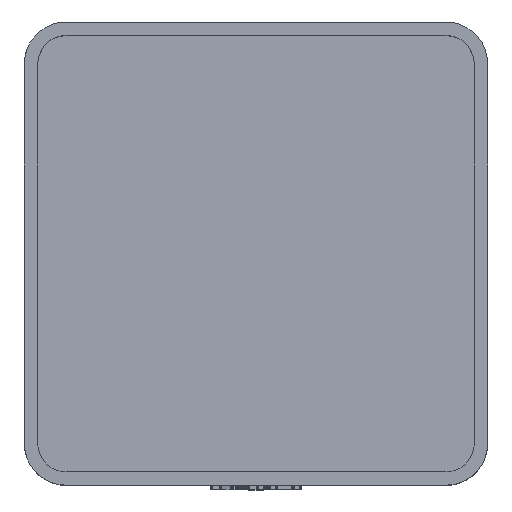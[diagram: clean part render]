
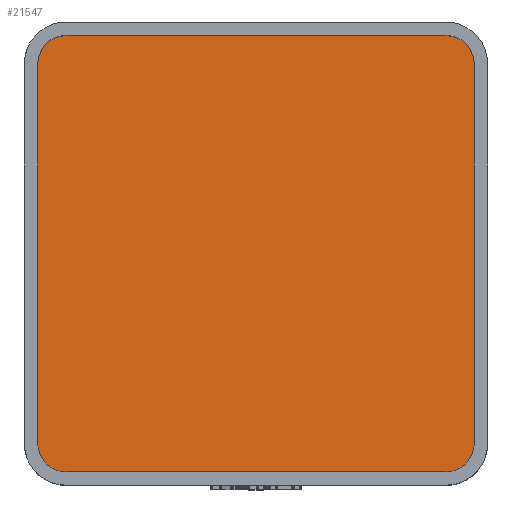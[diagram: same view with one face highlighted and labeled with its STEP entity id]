
A CAD part, top view. The second image highlights one B-rep face of the part: STEP entity #21547.
In plain terms, the highlighted planar face has unit normal (0, 0, 1).
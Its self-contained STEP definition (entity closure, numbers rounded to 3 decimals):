
#1442 = PLANE('',#1443);
#1443 = AXIS2_PLACEMENT_3D('',#1444,#1445,#1446);
#1444 = CARTESIAN_POINT('',(-19.55,-17.,4.75));
#1445 = DIRECTION('',(-1.,0.,0.));
#1446 = DIRECTION('',(0.,1.,0.));
#1474 = CYLINDRICAL_SURFACE('',#1475,2.55);
#1475 = AXIS2_PLACEMENT_3D('',#1476,#1477,#1478);
#1476 = CARTESIAN_POINT('',(-17.,17.,4.75));
#1477 = DIRECTION('',(-0.,-0.,-1.));
#1478 = DIRECTION('',(1.,0.,0.));
#1501 = PLANE('',#1502);
#1502 = AXIS2_PLACEMENT_3D('',#1503,#1504,#1505);
#1503 = CARTESIAN_POINT('',(-17.,19.55,4.75));
#1504 = DIRECTION('',(0.,1.,0.));
#1505 = DIRECTION('',(1.,0.,0.));
#1533 = CYLINDRICAL_SURFACE('',#1534,2.55);
#1534 = AXIS2_PLACEMENT_3D('',#1535,#1536,#1537);
#1535 = CARTESIAN_POINT('',(17.,17.,4.75));
#1536 = DIRECTION('',(-0.,-0.,-1.));
#1537 = DIRECTION('',(1.,0.,0.));
#1560 = PLANE('',#1561);
#1561 = AXIS2_PLACEMENT_3D('',#1562,#1563,#1564);
#1562 = CARTESIAN_POINT('',(19.55,-17.,4.75));
#1563 = DIRECTION('',(-1.,0.,0.));
#1564 = DIRECTION('',(0.,1.,0.));
#1592 = CYLINDRICAL_SURFACE('',#1593,2.55);
#1593 = AXIS2_PLACEMENT_3D('',#1594,#1595,#1596);
#1594 = CARTESIAN_POINT('',(17.,-17.,4.75));
#1595 = DIRECTION('',(-0.,-0.,-1.));
#1596 = DIRECTION('',(1.,0.,0.));
#1619 = PLANE('',#1620);
#1620 = AXIS2_PLACEMENT_3D('',#1621,#1622,#1623);
#1621 = CARTESIAN_POINT('',(-17.,-19.55,4.75));
#1622 = DIRECTION('',(0.,1.,0.));
#1623 = DIRECTION('',(1.,0.,0.));
#1649 = CYLINDRICAL_SURFACE('',#1650,2.55);
#1650 = AXIS2_PLACEMENT_3D('',#1651,#1652,#1653);
#1651 = CARTESIAN_POINT('',(-17.,-17.,4.75));
#1652 = DIRECTION('',(-0.,-0.,-1.));
#1653 = DIRECTION('',(1.,0.,0.));
#8493 = EDGE_CURVE('',#8494,#8496,#8498,.T.);
#8494 = VERTEX_POINT('',#8495);
#8495 = CARTESIAN_POINT('',(-19.55,-17.,4.75));
#8496 = VERTEX_POINT('',#8497);
#8497 = CARTESIAN_POINT('',(-19.55,17.,4.75));
#8498 = SURFACE_CURVE('',#8499,(#8503,#8510),.PCURVE_S1.);
#8499 = LINE('',#8500,#8501);
#8500 = CARTESIAN_POINT('',(-19.55,0.,4.75));
#8501 = VECTOR('',#8502,1.);
#8502 = DIRECTION('',(0.,1.,0.));
#8503 = PCURVE('',#1442,#8504);
#8504 = DEFINITIONAL_REPRESENTATION('',(#8505),#8509);
#8505 = LINE('',#8506,#8507);
#8506 = CARTESIAN_POINT('',(17.,0.));
#8507 = VECTOR('',#8508,1.);
#8508 = DIRECTION('',(1.,0.));
#8509 = ( GEOMETRIC_REPRESENTATION_CONTEXT(2) 
PARAMETRIC_REPRESENTATION_CONTEXT() REPRESENTATION_CONTEXT('2D SPACE',''
  ) );
#8510 = PCURVE('',#8511,#8516);
#8511 = PLANE('',#8512);
#8512 = AXIS2_PLACEMENT_3D('',#8513,#8514,#8515);
#8513 = CARTESIAN_POINT('',(0.,0.,4.75)
  );
#8514 = DIRECTION('',(0.,0.,1.));
#8515 = DIRECTION('',(1.,0.,-0.));
#8516 = DEFINITIONAL_REPRESENTATION('',(#8517),#8521);
#8517 = LINE('',#8518,#8519);
#8518 = CARTESIAN_POINT('',(-19.55,0.));
#8519 = VECTOR('',#8520,1.);
#8520 = DIRECTION('',(0.,1.));
#8521 = ( GEOMETRIC_REPRESENTATION_CONTEXT(2) 
PARAMETRIC_REPRESENTATION_CONTEXT() REPRESENTATION_CONTEXT('2D SPACE',''
  ) );
#8569 = EDGE_CURVE('',#8494,#8570,#8572,.T.);
#8570 = VERTEX_POINT('',#8571);
#8571 = CARTESIAN_POINT('',(-17.,-19.55,4.75));
#8572 = SURFACE_CURVE('',#8573,(#8578,#8585),.PCURVE_S1.);
#8573 = CIRCLE('',#8574,2.55);
#8574 = AXIS2_PLACEMENT_3D('',#8575,#8576,#8577);
#8575 = CARTESIAN_POINT('',(-17.,-17.,4.75));
#8576 = DIRECTION('',(0.,0.,1.));
#8577 = DIRECTION('',(1.,0.,0.));
#8578 = PCURVE('',#1649,#8579);
#8579 = DEFINITIONAL_REPRESENTATION('',(#8580),#8584);
#8580 = LINE('',#8581,#8582);
#8581 = CARTESIAN_POINT('',(-0.,0.));
#8582 = VECTOR('',#8583,1.);
#8583 = DIRECTION('',(-1.,0.));
#8584 = ( GEOMETRIC_REPRESENTATION_CONTEXT(2) 
PARAMETRIC_REPRESENTATION_CONTEXT() REPRESENTATION_CONTEXT('2D SPACE',''
  ) );
#8585 = PCURVE('',#8511,#8586);
#8586 = DEFINITIONAL_REPRESENTATION('',(#8587),#8591);
#8587 = CIRCLE('',#8588,2.55);
#8588 = AXIS2_PLACEMENT_2D('',#8589,#8590);
#8589 = CARTESIAN_POINT('',(-17.,-17.));
#8590 = DIRECTION('',(1.,0.));
#8591 = ( GEOMETRIC_REPRESENTATION_CONTEXT(2) 
PARAMETRIC_REPRESENTATION_CONTEXT() REPRESENTATION_CONTEXT('2D SPACE',''
  ) );
#8619 = EDGE_CURVE('',#8570,#8620,#8622,.T.);
#8620 = VERTEX_POINT('',#8621);
#8621 = CARTESIAN_POINT('',(17.,-19.55,4.75));
#8622 = SURFACE_CURVE('',#8623,(#8627,#8634),.PCURVE_S1.);
#8623 = LINE('',#8624,#8625);
#8624 = CARTESIAN_POINT('',(0.,-19.55,4.75));
#8625 = VECTOR('',#8626,1.);
#8626 = DIRECTION('',(1.,0.,0.));
#8627 = PCURVE('',#1619,#8628);
#8628 = DEFINITIONAL_REPRESENTATION('',(#8629),#8633);
#8629 = LINE('',#8630,#8631);
#8630 = CARTESIAN_POINT('',(17.,0.));
#8631 = VECTOR('',#8632,1.);
#8632 = DIRECTION('',(1.,0.));
#8633 = ( GEOMETRIC_REPRESENTATION_CONTEXT(2) 
PARAMETRIC_REPRESENTATION_CONTEXT() REPRESENTATION_CONTEXT('2D SPACE',''
  ) );
#8634 = PCURVE('',#8511,#8635);
#8635 = DEFINITIONAL_REPRESENTATION('',(#8636),#8640);
#8636 = LINE('',#8637,#8638);
#8637 = CARTESIAN_POINT('',(0.,-19.55));
#8638 = VECTOR('',#8639,1.);
#8639 = DIRECTION('',(1.,0.));
#8640 = ( GEOMETRIC_REPRESENTATION_CONTEXT(2) 
PARAMETRIC_REPRESENTATION_CONTEXT() REPRESENTATION_CONTEXT('2D SPACE',''
  ) );
#8668 = EDGE_CURVE('',#8620,#8669,#8671,.T.);
#8669 = VERTEX_POINT('',#8670);
#8670 = CARTESIAN_POINT('',(19.55,-17.,4.75));
#8671 = SURFACE_CURVE('',#8672,(#8677,#8684),.PCURVE_S1.);
#8672 = CIRCLE('',#8673,2.55);
#8673 = AXIS2_PLACEMENT_3D('',#8674,#8675,#8676);
#8674 = CARTESIAN_POINT('',(17.,-17.,4.75));
#8675 = DIRECTION('',(0.,0.,1.));
#8676 = DIRECTION('',(1.,0.,0.));
#8677 = PCURVE('',#1592,#8678);
#8678 = DEFINITIONAL_REPRESENTATION('',(#8679),#8683);
#8679 = LINE('',#8680,#8681);
#8680 = CARTESIAN_POINT('',(-0.,0.));
#8681 = VECTOR('',#8682,1.);
#8682 = DIRECTION('',(-1.,0.));
#8683 = ( GEOMETRIC_REPRESENTATION_CONTEXT(2) 
PARAMETRIC_REPRESENTATION_CONTEXT() REPRESENTATION_CONTEXT('2D SPACE',''
  ) );
#8684 = PCURVE('',#8511,#8685);
#8685 = DEFINITIONAL_REPRESENTATION('',(#8686),#8690);
#8686 = CIRCLE('',#8687,2.55);
#8687 = AXIS2_PLACEMENT_2D('',#8688,#8689);
#8688 = CARTESIAN_POINT('',(17.,-17.));
#8689 = DIRECTION('',(1.,0.));
#8690 = ( GEOMETRIC_REPRESENTATION_CONTEXT(2) 
PARAMETRIC_REPRESENTATION_CONTEXT() REPRESENTATION_CONTEXT('2D SPACE',''
  ) );
#8718 = EDGE_CURVE('',#8669,#8719,#8721,.T.);
#8719 = VERTEX_POINT('',#8720);
#8720 = CARTESIAN_POINT('',(19.55,17.,4.75));
#8721 = SURFACE_CURVE('',#8722,(#8726,#8733),.PCURVE_S1.);
#8722 = LINE('',#8723,#8724);
#8723 = CARTESIAN_POINT('',(19.55,0.,4.75));
#8724 = VECTOR('',#8725,1.);
#8725 = DIRECTION('',(0.,1.,0.));
#8726 = PCURVE('',#1560,#8727);
#8727 = DEFINITIONAL_REPRESENTATION('',(#8728),#8732);
#8728 = LINE('',#8729,#8730);
#8729 = CARTESIAN_POINT('',(17.,0.));
#8730 = VECTOR('',#8731,1.);
#8731 = DIRECTION('',(1.,0.));
#8732 = ( GEOMETRIC_REPRESENTATION_CONTEXT(2) 
PARAMETRIC_REPRESENTATION_CONTEXT() REPRESENTATION_CONTEXT('2D SPACE',''
  ) );
#8733 = PCURVE('',#8511,#8734);
#8734 = DEFINITIONAL_REPRESENTATION('',(#8735),#8739);
#8735 = LINE('',#8736,#8737);
#8736 = CARTESIAN_POINT('',(19.55,0.));
#8737 = VECTOR('',#8738,1.);
#8738 = DIRECTION('',(0.,1.));
#8739 = ( GEOMETRIC_REPRESENTATION_CONTEXT(2) 
PARAMETRIC_REPRESENTATION_CONTEXT() REPRESENTATION_CONTEXT('2D SPACE',''
  ) );
#8767 = EDGE_CURVE('',#8719,#8768,#8770,.T.);
#8768 = VERTEX_POINT('',#8769);
#8769 = CARTESIAN_POINT('',(17.,19.55,4.75));
#8770 = SURFACE_CURVE('',#8771,(#8776,#8783),.PCURVE_S1.);
#8771 = CIRCLE('',#8772,2.55);
#8772 = AXIS2_PLACEMENT_3D('',#8773,#8774,#8775);
#8773 = CARTESIAN_POINT('',(17.,17.,4.75));
#8774 = DIRECTION('',(0.,0.,1.));
#8775 = DIRECTION('',(1.,0.,0.));
#8776 = PCURVE('',#1533,#8777);
#8777 = DEFINITIONAL_REPRESENTATION('',(#8778),#8782);
#8778 = LINE('',#8779,#8780);
#8779 = CARTESIAN_POINT('',(-0.,0.));
#8780 = VECTOR('',#8781,1.);
#8781 = DIRECTION('',(-1.,0.));
#8782 = ( GEOMETRIC_REPRESENTATION_CONTEXT(2) 
PARAMETRIC_REPRESENTATION_CONTEXT() REPRESENTATION_CONTEXT('2D SPACE',''
  ) );
#8783 = PCURVE('',#8511,#8784);
#8784 = DEFINITIONAL_REPRESENTATION('',(#8785),#8789);
#8785 = CIRCLE('',#8786,2.55);
#8786 = AXIS2_PLACEMENT_2D('',#8787,#8788);
#8787 = CARTESIAN_POINT('',(17.,17.));
#8788 = DIRECTION('',(1.,0.));
#8789 = ( GEOMETRIC_REPRESENTATION_CONTEXT(2) 
PARAMETRIC_REPRESENTATION_CONTEXT() REPRESENTATION_CONTEXT('2D SPACE',''
  ) );
#8817 = EDGE_CURVE('',#8818,#8768,#8820,.T.);
#8818 = VERTEX_POINT('',#8819);
#8819 = CARTESIAN_POINT('',(-17.,19.55,4.75));
#8820 = SURFACE_CURVE('',#8821,(#8825,#8832),.PCURVE_S1.);
#8821 = LINE('',#8822,#8823);
#8822 = CARTESIAN_POINT('',(0.,19.55,4.75));
#8823 = VECTOR('',#8824,1.);
#8824 = DIRECTION('',(1.,0.,0.));
#8825 = PCURVE('',#1501,#8826);
#8826 = DEFINITIONAL_REPRESENTATION('',(#8827),#8831);
#8827 = LINE('',#8828,#8829);
#8828 = CARTESIAN_POINT('',(17.,0.));
#8829 = VECTOR('',#8830,1.);
#8830 = DIRECTION('',(1.,0.));
#8831 = ( GEOMETRIC_REPRESENTATION_CONTEXT(2) 
PARAMETRIC_REPRESENTATION_CONTEXT() REPRESENTATION_CONTEXT('2D SPACE',''
  ) );
#8832 = PCURVE('',#8511,#8833);
#8833 = DEFINITIONAL_REPRESENTATION('',(#8834),#8838);
#8834 = LINE('',#8835,#8836);
#8835 = CARTESIAN_POINT('',(0.,19.55));
#8836 = VECTOR('',#8837,1.);
#8837 = DIRECTION('',(1.,0.));
#8838 = ( GEOMETRIC_REPRESENTATION_CONTEXT(2) 
PARAMETRIC_REPRESENTATION_CONTEXT() REPRESENTATION_CONTEXT('2D SPACE',''
  ) );
#8866 = EDGE_CURVE('',#8818,#8496,#8867,.T.);
#8867 = SURFACE_CURVE('',#8868,(#8873,#8880),.PCURVE_S1.);
#8868 = CIRCLE('',#8869,2.55);
#8869 = AXIS2_PLACEMENT_3D('',#8870,#8871,#8872);
#8870 = CARTESIAN_POINT('',(-17.,17.,4.75));
#8871 = DIRECTION('',(0.,0.,1.));
#8872 = DIRECTION('',(1.,0.,0.));
#8873 = PCURVE('',#1474,#8874);
#8874 = DEFINITIONAL_REPRESENTATION('',(#8875),#8879);
#8875 = LINE('',#8876,#8877);
#8876 = CARTESIAN_POINT('',(-0.,0.));
#8877 = VECTOR('',#8878,1.);
#8878 = DIRECTION('',(-1.,0.));
#8879 = ( GEOMETRIC_REPRESENTATION_CONTEXT(2) 
PARAMETRIC_REPRESENTATION_CONTEXT() REPRESENTATION_CONTEXT('2D SPACE',''
  ) );
#8880 = PCURVE('',#8511,#8881);
#8881 = DEFINITIONAL_REPRESENTATION('',(#8882),#8886);
#8882 = CIRCLE('',#8883,2.55);
#8883 = AXIS2_PLACEMENT_2D('',#8884,#8885);
#8884 = CARTESIAN_POINT('',(-17.,17.));
#8885 = DIRECTION('',(1.,0.));
#8886 = ( GEOMETRIC_REPRESENTATION_CONTEXT(2) 
PARAMETRIC_REPRESENTATION_CONTEXT() REPRESENTATION_CONTEXT('2D SPACE',''
  ) );
#21547 = ADVANCED_FACE('',(#21548),#8511,.T.);
#21548 = FACE_BOUND('',#21549,.T.);
#21549 = EDGE_LOOP('',(#21550,#21551,#21552,#21553,#21554,#21555,#21556,
    #21557));
#21550 = ORIENTED_EDGE('',*,*,#8493,.F.);
#21551 = ORIENTED_EDGE('',*,*,#8569,.T.);
#21552 = ORIENTED_EDGE('',*,*,#8619,.T.);
#21553 = ORIENTED_EDGE('',*,*,#8668,.T.);
#21554 = ORIENTED_EDGE('',*,*,#8718,.T.);
#21555 = ORIENTED_EDGE('',*,*,#8767,.T.);
#21556 = ORIENTED_EDGE('',*,*,#8817,.F.);
#21557 = ORIENTED_EDGE('',*,*,#8866,.T.);
